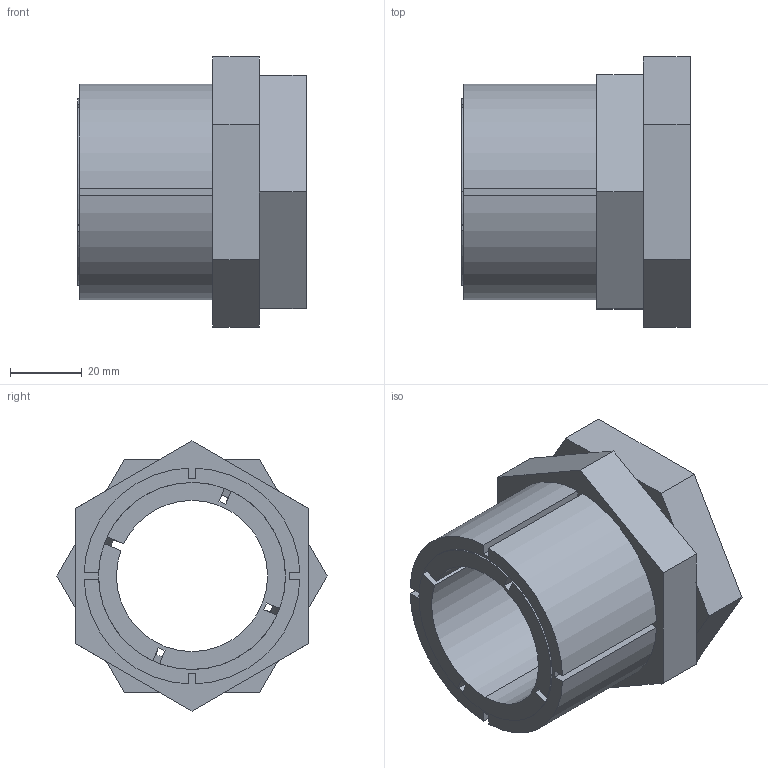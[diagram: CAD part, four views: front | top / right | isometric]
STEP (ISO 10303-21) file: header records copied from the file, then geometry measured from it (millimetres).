
FILE_DESCRIPTION (( 'STEP AP203' ), '1' );
FILE_NAME ('KBS 59 - 42 x 60.STEP', '2015-07-07T21:09:48', ( '' ), ( '' ), 'SwSTEP 2.0', 'SolidWorks 2010', '' );
FILE_SCHEMA (( 'CONFIG_CONTROL_DESIGN' ));
Length unit declared in the file: millimetre
Products named in the file (1): KBS 59 - 42 x 60
Bounding box: 63.5 x 75.06 x 75.06 mm (x, y, z)
Volume: 109527 mm3; surface area: 50180 mm2
Topology: 3 solids, 3 shells, 78 faces, 204 edges, 132 vertices
Faces by surface type: plane 56, cylinder 14, cone 8
Entity records: 2469 total; most frequent: CARTESIAN_POINT 451, ORIENTED_EDGE 408, DIRECTION 396, EDGE_CURVE 204, LINE 150, VECTOR 150, VERTEX_POINT 132, AXIS2_PLACEMENT_3D 123
